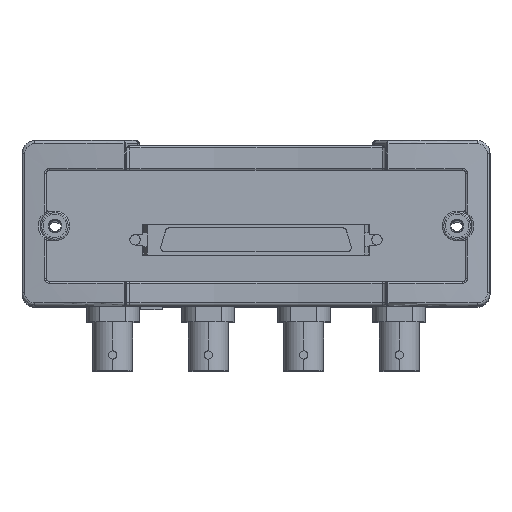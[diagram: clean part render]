
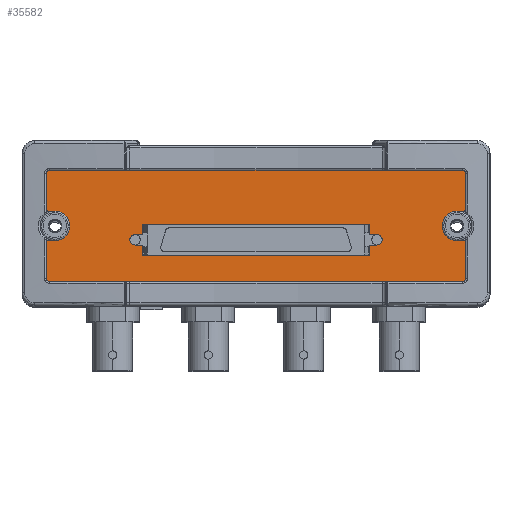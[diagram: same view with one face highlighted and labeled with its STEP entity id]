
A CAD part, top view. The second image highlights one B-rep face of the part: STEP entity #35582.
In plain terms, the highlighted planar face has unit normal (0, 0, 1).
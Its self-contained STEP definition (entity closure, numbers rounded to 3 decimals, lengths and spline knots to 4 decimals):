
#1805=DIRECTION('',(-1.,0.,0.));
#1806=VECTOR('',#1805,3.914);
#1807=CARTESIAN_POINT('',(1.957,-1.242,0.05));
#1808=LINE('',#1807,#1806);
#1809=CARTESIAN_POINT('',(-1.957,-1.212,0.05));
#1810=DIRECTION('',(0.,0.,1.));
#1811=DIRECTION('',(-1.,0.,0.));
#1812=AXIS2_PLACEMENT_3D('',#1809,#1810,#1811);
#1814=DIRECTION('',(0.,1.,0.));
#1815=VECTOR('',#1814,0.352);
#1816=CARTESIAN_POINT('',(-1.987,-1.212,0.05));
#1817=LINE('',#1816,#1815);
#1818=CARTESIAN_POINT('',(-1.957,-0.86,0.05));
#1819=DIRECTION('',(0.,0.,-1.));
#1820=DIRECTION('',(-1.,0.,0.));
#1821=AXIS2_PLACEMENT_3D('',#1818,#1819,#1820);
#1823=DIRECTION('',(1.,0.,0.));
#1824=VECTOR('',#1823,0.062);
#1825=CARTESIAN_POINT('',(-1.957,-0.83,0.05));
#1826=LINE('',#1825,#1824);
#1827=CARTESIAN_POINT('',(-1.895,-0.69,0.05));
#1828=DIRECTION('',(0.,0.,1.));
#1829=DIRECTION('',(0.,-1.,0.));
#1830=AXIS2_PLACEMENT_3D('',#1827,#1828,#1829);
#1832=DIRECTION('',(-1.,0.,0.));
#1833=VECTOR('',#1832,0.062);
#1834=CARTESIAN_POINT('',(-1.895,-0.55,0.05));
#1835=LINE('',#1834,#1833);
#1836=CARTESIAN_POINT('',(-1.957,-0.52,0.05));
#1837=DIRECTION('',(0.,0.,1.));
#1838=DIRECTION('',(-1.,0.,0.));
#1839=AXIS2_PLACEMENT_3D('',#1836,#1837,#1838);
#1841=DIRECTION('',(0.,1.,0.));
#1842=VECTOR('',#1841,0.352);
#1843=CARTESIAN_POINT('',(-1.987,-0.52,0.05));
#1844=LINE('',#1843,#1842);
#1845=CARTESIAN_POINT('',(-1.957,-0.168,0.05));
#1846=DIRECTION('',(0.,0.,1.));
#1847=DIRECTION('',(0.,1.,0.));
#1848=AXIS2_PLACEMENT_3D('',#1845,#1846,#1847);
#1850=DIRECTION('',(1.,0.,0.));
#1851=VECTOR('',#1850,3.914);
#1852=CARTESIAN_POINT('',(-1.957,-0.138,0.05));
#1853=LINE('',#1852,#1851);
#1854=CARTESIAN_POINT('',(1.957,-0.168,0.05));
#1855=DIRECTION('',(0.,0.,1.));
#1856=DIRECTION('',(1.,0.,0.));
#1857=AXIS2_PLACEMENT_3D('',#1854,#1855,#1856);
#1859=DIRECTION('',(0.,-1.,0.));
#1860=VECTOR('',#1859,0.352);
#1861=CARTESIAN_POINT('',(1.987,-0.168,0.05));
#1862=LINE('',#1861,#1860);
#1863=CARTESIAN_POINT('',(1.957,-0.52,0.05));
#1864=DIRECTION('',(0.,0.,-1.));
#1865=DIRECTION('',(1.,0.,0.));
#1866=AXIS2_PLACEMENT_3D('',#1863,#1864,#1865);
#1868=DIRECTION('',(-1.,0.,0.));
#1869=VECTOR('',#1868,0.062);
#1870=CARTESIAN_POINT('',(1.957,-0.55,0.05));
#1871=LINE('',#1870,#1869);
#1872=CARTESIAN_POINT('',(1.895,-0.69,0.05));
#1873=DIRECTION('',(0.,0.,1.));
#1874=DIRECTION('',(0.,1.,0.));
#1875=AXIS2_PLACEMENT_3D('',#1872,#1873,#1874);
#1877=DIRECTION('',(1.,0.,0.));
#1878=VECTOR('',#1877,0.062);
#1879=CARTESIAN_POINT('',(1.895,-0.83,0.05));
#1880=LINE('',#1879,#1878);
#1881=CARTESIAN_POINT('',(1.957,-0.86,0.05));
#1882=DIRECTION('',(0.,0.,1.));
#1883=DIRECTION('',(1.,0.,0.));
#1884=AXIS2_PLACEMENT_3D('',#1881,#1882,#1883);
#1886=DIRECTION('',(0.,-1.,0.));
#1887=VECTOR('',#1886,0.352);
#1888=CARTESIAN_POINT('',(1.987,-0.86,0.05));
#1889=LINE('',#1888,#1887);
#1890=CARTESIAN_POINT('',(1.957,-1.212,0.05));
#1891=DIRECTION('',(0.,0.,1.));
#1892=DIRECTION('',(0.,-1.,0.));
#1893=AXIS2_PLACEMENT_3D('',#1890,#1891,#1892);
#1895=DIRECTION('',(-1.,0.,0.));
#1896=VECTOR('',#1895,0.0735);
#1897=CARTESIAN_POINT('',(1.14,-0.772,0.05));
#1898=LINE('',#1897,#1896);
#1899=DIRECTION('',(0.,1.,0.));
#1900=VECTOR('',#1899,0.0993);
#1901=CARTESIAN_POINT('',(1.0665,-0.772,0.05));
#1902=LINE('',#1901,#1900);
#1903=DIRECTION('',(-1.,0.,0.));
#1904=VECTOR('',#1903,2.133);
#1905=CARTESIAN_POINT('',(1.0665,-0.6728,0.05));
#1906=LINE('',#1905,#1904);
#1907=DIRECTION('',(0.,-1.,0.));
#1908=VECTOR('',#1907,0.0993);
#1909=CARTESIAN_POINT('',(-1.0665,-0.6728,0.05));
#1910=LINE('',#1909,#1908);
#1911=DIRECTION('',(-1.,0.,0.));
#1912=VECTOR('',#1911,0.0735);
#1913=CARTESIAN_POINT('',(-1.0665,-0.772,0.05));
#1914=LINE('',#1913,#1912);
#1915=DIRECTION('',(1.,0.,0.));
#1916=VECTOR('',#1915,0.0735);
#1917=CARTESIAN_POINT('',(-1.14,-0.8705,0.05));
#1918=LINE('',#1917,#1916);
#1919=DIRECTION('',(0.,-1.,0.));
#1920=VECTOR('',#1919,0.0993);
#1921=CARTESIAN_POINT('',(-1.0665,-0.8705,0.05));
#1922=LINE('',#1921,#1920);
#1923=DIRECTION('',(1.,0.,0.));
#1924=VECTOR('',#1923,2.133);
#1925=CARTESIAN_POINT('',(-1.0665,-0.9698,0.05));
#1926=LINE('',#1925,#1924);
#1927=DIRECTION('',(0.,1.,0.));
#1928=VECTOR('',#1927,0.0993);
#1929=CARTESIAN_POINT('',(1.0665,-0.9698,0.05));
#1930=LINE('',#1929,#1928);
#1931=DIRECTION('',(1.,0.,0.));
#1932=VECTOR('',#1931,0.0735);
#1933=CARTESIAN_POINT('',(1.0665,-0.8705,0.05));
#1934=LINE('',#1933,#1932);
#18058=CARTESIAN_POINT('',(-1.14,-0.8213,0.05));
#18059=DIRECTION('',(0.,0.,-1.));
#18060=DIRECTION('',(0.,-1.,0.));
#18061=AXIS2_PLACEMENT_3D('',#18058,#18059,#18060);
#18115=CARTESIAN_POINT('',(1.14,-0.8213,0.05));
#18116=DIRECTION('',(0.,0.,-1.));
#18117=DIRECTION('',(0.,1.,0.));
#18118=AXIS2_PLACEMENT_3D('',#18115,#18116,#18117);
#31844=CARTESIAN_POINT('',(1.0665,-0.6728,0.05));
#31845=CARTESIAN_POINT('',(-1.0665,-0.6728,0.05));
#31846=VERTEX_POINT('',#31844);
#31847=VERTEX_POINT('',#31845);
#31848=CARTESIAN_POINT('',(-1.0665,-0.9698,0.05));
#31849=CARTESIAN_POINT('',(1.0665,-0.9698,0.05));
#31850=VERTEX_POINT('',#31848);
#31851=VERTEX_POINT('',#31849);
#31852=CARTESIAN_POINT('',(1.14,-0.772,0.05));
#31853=CARTESIAN_POINT('',(1.0665,-0.772,0.05));
#31854=VERTEX_POINT('',#31852);
#31855=VERTEX_POINT('',#31853);
#31856=CARTESIAN_POINT('',(1.0665,-0.8705,0.05));
#31857=CARTESIAN_POINT('',(1.14,-0.8705,0.05));
#31858=VERTEX_POINT('',#31856);
#31859=VERTEX_POINT('',#31857);
#31860=CARTESIAN_POINT('',(-1.14,-0.8705,0.05));
#31861=CARTESIAN_POINT('',(-1.0665,-0.8705,0.05));
#31862=VERTEX_POINT('',#31860);
#31863=VERTEX_POINT('',#31861);
#31864=CARTESIAN_POINT('',(-1.0665,-0.772,0.05));
#31865=CARTESIAN_POINT('',(-1.14,-0.772,0.05));
#31866=VERTEX_POINT('',#31864);
#31867=VERTEX_POINT('',#31865);
#32152=CARTESIAN_POINT('',(1.957,-1.242,0.05));
#32153=CARTESIAN_POINT('',(-1.957,-1.242,0.05));
#32154=VERTEX_POINT('',#32152);
#32155=VERTEX_POINT('',#32153);
#32156=CARTESIAN_POINT('',(-1.987,-1.212,0.05));
#32157=CARTESIAN_POINT('',(-1.987,-0.86,0.05));
#32158=VERTEX_POINT('',#32156);
#32159=VERTEX_POINT('',#32157);
#32160=CARTESIAN_POINT('',(-1.987,-0.52,0.05));
#32161=CARTESIAN_POINT('',(-1.987,-0.168,0.05));
#32162=VERTEX_POINT('',#32160);
#32163=VERTEX_POINT('',#32161);
#32164=CARTESIAN_POINT('',(-1.957,-0.138,0.05));
#32165=CARTESIAN_POINT('',(1.957,-0.138,0.05));
#32166=VERTEX_POINT('',#32164);
#32167=VERTEX_POINT('',#32165);
#32168=CARTESIAN_POINT('',(1.987,-0.168,0.05));
#32169=CARTESIAN_POINT('',(1.987,-0.52,0.05));
#32170=VERTEX_POINT('',#32168);
#32171=VERTEX_POINT('',#32169);
#32172=CARTESIAN_POINT('',(1.987,-0.86,0.05));
#32173=CARTESIAN_POINT('',(1.987,-1.212,0.05));
#32174=VERTEX_POINT('',#32172);
#32175=VERTEX_POINT('',#32173);
#32180=CARTESIAN_POINT('',(-1.957,-0.83,0.05));
#32181=CARTESIAN_POINT('',(-1.895,-0.83,0.05));
#32182=VERTEX_POINT('',#32180);
#32183=VERTEX_POINT('',#32181);
#32184=CARTESIAN_POINT('',(-1.895,-0.55,0.05));
#32185=VERTEX_POINT('',#32184);
#32186=CARTESIAN_POINT('',(-1.957,-0.55,0.05));
#32187=VERTEX_POINT('',#32186);
#32192=CARTESIAN_POINT('',(1.957,-0.55,0.05));
#32193=CARTESIAN_POINT('',(1.895,-0.55,0.05));
#32194=VERTEX_POINT('',#32192);
#32195=VERTEX_POINT('',#32193);
#32196=CARTESIAN_POINT('',(1.895,-0.83,0.05));
#32197=VERTEX_POINT('',#32196);
#32198=CARTESIAN_POINT('',(1.957,-0.83,0.05));
#32199=VERTEX_POINT('',#32198);
#35517=CARTESIAN_POINT('',(0.,-0.69,0.05));
#35518=DIRECTION('',(0.,0.,1.));
#35519=DIRECTION('',(-1.,0.,0.));
#35520=AXIS2_PLACEMENT_3D('',#35517,#35518,#35519);
#35521=PLANE('',#35520);
#35523=ORIENTED_EDGE('',*,*,#35522,.T.);
#35525=ORIENTED_EDGE('',*,*,#35524,.F.);
#35527=ORIENTED_EDGE('',*,*,#35526,.T.);
#35529=ORIENTED_EDGE('',*,*,#35528,.T.);
#35530=ORIENTED_EDGE('',*,*,#35508,.T.);
#35531=ORIENTED_EDGE('',*,*,#35498,.T.);
#35533=ORIENTED_EDGE('',*,*,#35532,.T.);
#35535=ORIENTED_EDGE('',*,*,#35534,.F.);
#35536=ORIENTED_EDGE('',*,*,#34826,.T.);
#35537=ORIENTED_EDGE('',*,*,#34841,.F.);
#35538=ORIENTED_EDGE('',*,*,#34855,.T.);
#35539=ORIENTED_EDGE('',*,*,#34869,.F.);
#35540=ORIENTED_EDGE('',*,*,#34883,.T.);
#35541=ORIENTED_EDGE('',*,*,#34899,.T.);
#35543=ORIENTED_EDGE('',*,*,#35542,.T.);
#35545=ORIENTED_EDGE('',*,*,#35544,.T.);
#35547=ORIENTED_EDGE('',*,*,#35546,.T.);
#35549=ORIENTED_EDGE('',*,*,#35548,.F.);
#35551=ORIENTED_EDGE('',*,*,#35550,.T.);
#35553=ORIENTED_EDGE('',*,*,#35552,.F.);
#35554=EDGE_LOOP('',(#35523,#35525,#35527,#35529,#35530,#35531,#35533,#35535,
#35536,#35537,#35538,#35539,#35540,#35541,#35543,#35545,#35547,#35549,#35551,
#35553));
#35555=FACE_OUTER_BOUND('',#35554,.F.);
#35557=ORIENTED_EDGE('',*,*,#35556,.T.);
#35559=ORIENTED_EDGE('',*,*,#35558,.T.);
#35561=ORIENTED_EDGE('',*,*,#35560,.T.);
#35563=ORIENTED_EDGE('',*,*,#35562,.T.);
#35565=ORIENTED_EDGE('',*,*,#35564,.T.);
#35567=ORIENTED_EDGE('',*,*,#35566,.F.);
#35569=ORIENTED_EDGE('',*,*,#35568,.T.);
#35571=ORIENTED_EDGE('',*,*,#35570,.T.);
#35573=ORIENTED_EDGE('',*,*,#35572,.T.);
#35575=ORIENTED_EDGE('',*,*,#35574,.T.);
#35577=ORIENTED_EDGE('',*,*,#35576,.T.);
#35579=ORIENTED_EDGE('',*,*,#35578,.F.);
#35580=EDGE_LOOP('',(#35557,#35559,#35561,#35563,#35565,#35567,#35569,#35571,
#35573,#35575,#35577,#35579));
#35581=FACE_BOUND('',#35580,.F.);
#35582=ADVANCED_FACE('',(#35555,#35581),#35521,.T.);
#1813=CIRCLE('',#1812,0.03);
#1822=CIRCLE('',#1821,0.03);
#1831=CIRCLE('',#1830,0.14);
#1840=CIRCLE('',#1839,0.03);
#1849=CIRCLE('',#1848,0.03);
#1858=CIRCLE('',#1857,0.03);
#1867=CIRCLE('',#1866,0.03);
#1876=CIRCLE('',#1875,0.14);
#1885=CIRCLE('',#1884,0.03);
#1894=CIRCLE('',#1893,0.03);
#18062=CIRCLE('',#18061,0.0493);
#18119=CIRCLE('',#18118,0.0493);
#34826=EDGE_CURVE('',#32162,#32163,#1844,.T.);
#34841=EDGE_CURVE('',#32166,#32163,#1849,.T.);
#34855=EDGE_CURVE('',#32166,#32167,#1853,.T.);
#34869=EDGE_CURVE('',#32170,#32167,#1858,.T.);
#34883=EDGE_CURVE('',#32170,#32171,#1862,.T.);
#34899=EDGE_CURVE('',#32171,#32194,#1867,.T.);
#35498=EDGE_CURVE('',#32183,#32185,#1831,.T.);
#35508=EDGE_CURVE('',#32182,#32183,#1826,.T.);
#35522=EDGE_CURVE('',#32154,#32155,#1808,.T.);
#35524=EDGE_CURVE('',#32158,#32155,#1813,.T.);
#35526=EDGE_CURVE('',#32158,#32159,#1817,.T.);
#35528=EDGE_CURVE('',#32159,#32182,#1822,.T.);
#35532=EDGE_CURVE('',#32185,#32187,#1835,.T.);
#35534=EDGE_CURVE('',#32162,#32187,#1840,.T.);
#35542=EDGE_CURVE('',#32194,#32195,#1871,.T.);
#35544=EDGE_CURVE('',#32195,#32197,#1876,.T.);
#35546=EDGE_CURVE('',#32197,#32199,#1880,.T.);
#35548=EDGE_CURVE('',#32174,#32199,#1885,.T.);
#35550=EDGE_CURVE('',#32174,#32175,#1889,.T.);
#35552=EDGE_CURVE('',#32154,#32175,#1894,.T.);
#35556=EDGE_CURVE('',#31854,#31855,#1898,.T.);
#35558=EDGE_CURVE('',#31855,#31846,#1902,.T.);
#35560=EDGE_CURVE('',#31846,#31847,#1906,.T.);
#35562=EDGE_CURVE('',#31847,#31866,#1910,.T.);
#35564=EDGE_CURVE('',#31866,#31867,#1914,.T.);
#35566=EDGE_CURVE('',#31862,#31867,#18062,.T.);
#35568=EDGE_CURVE('',#31862,#31863,#1918,.T.);
#35570=EDGE_CURVE('',#31863,#31850,#1922,.T.);
#35572=EDGE_CURVE('',#31850,#31851,#1926,.T.);
#35574=EDGE_CURVE('',#31851,#31858,#1930,.T.);
#35576=EDGE_CURVE('',#31858,#31859,#1934,.T.);
#35578=EDGE_CURVE('',#31854,#31859,#18119,.T.);
